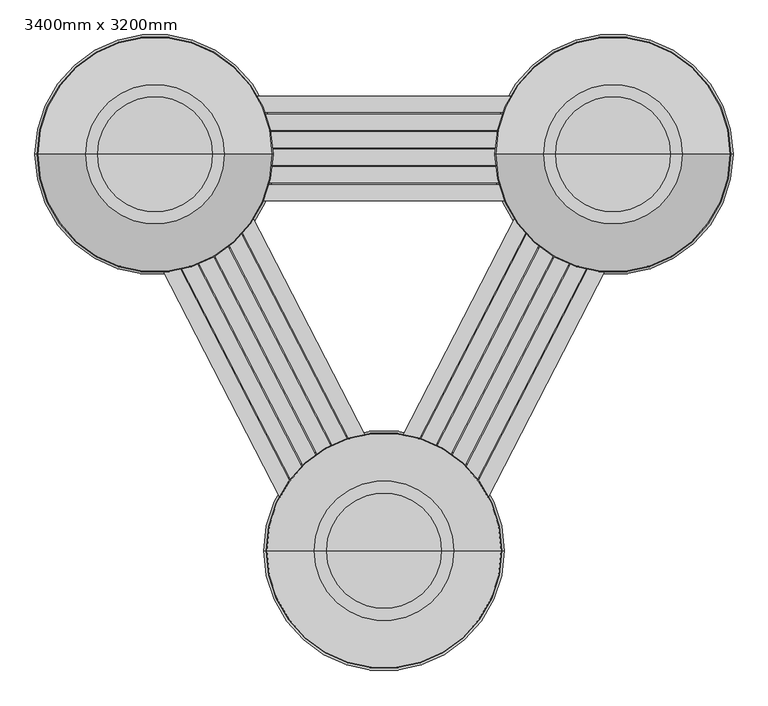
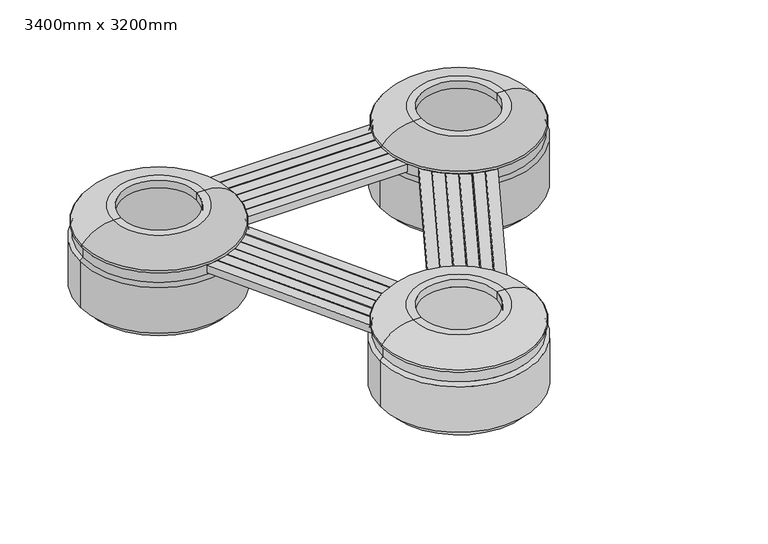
"""IFC4 building model written with IfcOpenShell, lengths in millimetres: geographic element geometry, Jardinières 3 éléments avec bancs : 3400mm x 3200mm."""

import ifcopenshell
import ifcopenshell.guid

model = None  # the IFC model being written
_history = None  # IfcOwnerHistory: only IFC2X3 demands one
_inside = {}  # id of a spatial element -> (the spatial element, [elements in it])
_under = {}  # id of a project, library or spatial element -> (it, [spatial elements below it])
_declared = {}  # id of a project -> (the project, [libraries it declares])
_typed = {}  # id of a type object -> (the type object, [elements of that type])
_made_of = {}  # id of a material, layer set ... -> (it, [elements and type objects made of it])


def new_model(schema):
    """Start an empty IFC model of exactly this schema.

    Asked for "IFC4X3", IfcOpenShell would pick the latest addendum, in which some entities
    have other attributes; the version numbers below select the first issue.
    IFC2X3 requires an IfcOwnerHistory on every rooted entity: one is made here for all.
    """
    global model, _history
    if schema == "IFC4X3":
        model = ifcopenshell.file(schema_version=(4, 3, 0, 0))
    else:
        model = ifcopenshell.file(schema=schema)
    _inside.clear()
    _under.clear()
    _declared.clear()
    _typed.clear()
    _made_of.clear()
    _history = None
    if model.schema == "IFC2X3":
        org = make("IfcOrganization", Name="unknown")
        user = make(
            "IfcPersonAndOrganization",
            ThePerson=make("IfcPerson", FamilyName="unknown"),
            TheOrganization=org,
        )
        app = make(
            "IfcApplication",
            ApplicationDeveloper=org,
            Version="unknown",
            ApplicationFullName="unknown",
            ApplicationIdentifier="unknown",
        )
        _history = make(
            "IfcOwnerHistory",
            OwningUser=user,
            OwningApplication=app,
            ChangeAction="ADDED",
            CreationDate=0,
        )
    return model


def make(cls, **values):
    """One entity of the class cls with the attributes given. An attribute that is None is left unset."""
    return model.create_entity(
        cls, **{name: value for name, value in values.items() if value is not None}
    )


def rooted(cls, **values):
    """An entity with a GlobalId (a new one), such as an element, a storey or a relation."""
    return make(cls, GlobalId=ifcopenshell.guid.new(), OwnerHistory=_history, **values)


def si_unit(unit_type, name, prefix=None):
    """IfcSIUnit, for example si_unit("LENGTHUNIT", "METRE", prefix="MILLI")."""
    return make("IfcSIUnit", UnitType=unit_type, Prefix=prefix, Name=name)


def assignment(units):
    """IfcUnitAssignment: the units of a project."""
    return None if units is None else make("IfcUnitAssignment", Units=units)


def point(xyz):
    """IfcCartesianPoint."""
    return None if xyz is None else make("IfcCartesianPoint", Coordinates=xyz)


def direction(xyz):
    """IfcDirection."""
    return None if xyz is None else make("IfcDirection", DirectionRatios=xyz)


def frame(location, z_axis=None, x_axis=None):
    """IfcAxis2Placement3D, a coordinate frame: its origin and axes. An axis left out is left unset."""
    return make(
        "IfcAxis2Placement3D",
        Location=point(location),
        Axis=direction(z_axis),
        RefDirection=direction(x_axis),
    )


def frame_2d(location, x_axis=None):
    """IfcAxis2Placement2D, a coordinate frame in the plane: its origin and x axis."""
    return make(
        "IfcAxis2Placement2D", Location=point(location), RefDirection=direction(x_axis)
    )


def origin():
    """The frame at (0, 0, 0) with its axes left unset."""
    return frame((0.0, 0.0, 0.0))


def place(relative_to, where):
    """IfcLocalPlacement: puts the frame where relative to a parent placement (None: the world)."""
    return make(
        "IfcLocalPlacement", PlacementRelTo=relative_to, RelativePlacement=where
    )


def context(
    kind, dimensions, precision=None, world=None, true_north=None, identifier=None
):
    """IfcGeometricRepresentationContext, for example the 3D "Model" context."""
    return make(
        "IfcGeometricRepresentationContext",
        ContextIdentifier=identifier,
        ContextType=kind,
        CoordinateSpaceDimension=dimensions,
        Precision=precision,
        WorldCoordinateSystem=world,
        TrueNorth=true_north,
    )


def project(units=None, contexts=None):
    """IfcProject with its units and contexts."""
    return rooted(
        "IfcProject",
        Name="project",
        RepresentationContexts=contexts,
        UnitsInContext=assignment(units),
    )


def spatial(cls, under=None, at=None, **own):
    """A site, building, storey or space (cls), placed at a placement, below another one or the project."""
    s = rooted(cls, ObjectPlacement=at, **own)
    if under is not None:
        _under.setdefault(under.id(), (under, []))[1].append(s)
    return s


def polyline(points):
    """IfcPolyline through the points."""
    return make("IfcPolyline", Points=[point(p) for p in points])


def circle_curve(where, radius):
    """IfcCircle in the frame where."""
    return make("IfcCircle", Position=where, Radius=radius)


def ellipse_curve(where, semi_axis1, semi_axis2):
    """IfcEllipse in the frame where."""
    return make(
        "IfcEllipse", Position=where, SemiAxis1=semi_axis1, SemiAxis2=semi_axis2
    )


def trimmed(basis, trim1, trim2, sense, master):
    """IfcTrimmedCurve: the piece of a basis curve between two trims."""
    return make(
        "IfcTrimmedCurve",
        BasisCurve=basis,
        Trim1=trim1,
        Trim2=trim2,
        SenseAgreement=sense,
        MasterRepresentation=master,
    )


def segment(curve, same_sense, transition):
    """IfcCompositeCurveSegment."""
    return make(
        "IfcCompositeCurveSegment",
        Transition=transition,
        SameSense=same_sense,
        ParentCurve=curve,
    )


def composite_curve(segments, self_intersect=None):
    """IfcCompositeCurve: segments joined end to end."""
    return make("IfcCompositeCurve", Segments=segments, SelfIntersect=self_intersect)


def outline(outer, holes=None, kind="AREA"):
    """IfcArbitraryClosedProfileDef: a profile drawn as a closed curve; with holes, ...WithVoids."""
    if holes is None:
        return make("IfcArbitraryClosedProfileDef", ProfileType=kind, OuterCurve=outer)
    return make(
        "IfcArbitraryProfileDefWithVoids",
        ProfileType=kind,
        OuterCurve=outer,
        InnerCurves=holes,
    )


def extrude(swept, where, along, depth):
    """IfcExtrudedAreaSolid: the profile swept, set in the frame where, extruded along a direction by depth."""
    return make(
        "IfcExtrudedAreaSolid",
        SweptArea=swept,
        Position=where,
        ExtrudedDirection=direction(along),
        Depth=depth,
    )


def shape(context_of_items, identifier, shape_type, items):
    """IfcShapeRepresentation: the items that make up one representation, for example the "Body"."""
    return make(
        "IfcShapeRepresentation",
        ContextOfItems=context_of_items,
        RepresentationIdentifier=identifier,
        RepresentationType=shape_type,
        Items=items,
    )


def source(mapping_origin, context_of_items, identifier, shape_type, items):
    """IfcRepresentationMap: a shape defined once, which mapped items show again and again."""
    return make(
        "IfcRepresentationMap",
        MappingOrigin=mapping_origin,
        MappedRepresentation=shape(context_of_items, identifier, shape_type, items),
    )


def transform(
    local_origin,
    x_axis=None,
    y_axis=None,
    z_axis=None,
    scale=None,
    scale2=None,
    scale3=None,
    uniform=True,
):
    """IfcCartesianTransformationOperator3D, or its non-uniform kind. x_axis, y_axis, z_axis: its Axis1, 2, 3."""
    if uniform:
        return make(
            "IfcCartesianTransformationOperator3D",
            Axis1=direction(x_axis),
            Axis2=direction(y_axis),
            LocalOrigin=point(local_origin),
            Scale=scale,
            Axis3=direction(z_axis),
        )
    return make(
        "IfcCartesianTransformationOperator3DnonUniform",
        Axis1=direction(x_axis),
        Axis2=direction(y_axis),
        LocalOrigin=point(local_origin),
        Scale=scale,
        Axis3=direction(z_axis),
        Scale2=scale2,
        Scale3=scale3,
    )


def mapped(mapping_source, mapping_target):
    """IfcMappedItem: shows the shape of a source again, moved by a transform."""
    return make(
        "IfcMappedItem", MappingSource=mapping_source, MappingTarget=mapping_target
    )


def made_of(thing, what):
    """Note that an element or type object is made of a material, layer set ...; save() writes the relation."""
    if what is not None:
        _made_of.setdefault(what.id(), (what, []))[1].append(thing)
    return thing


def element(
    cls,
    number,
    at=None,
    inside=None,
    cuts=None,
    type_object=None,
    material=None,
    context=None,
    identifier="Body",
    shape_type=None,
    held_by="IfcProductDefinitionShape",
    body=None,
    shapes=None,
    **own,
):
    """One element of the class cls, such as IfcWall. Its Tag is "e" and its number.

    at: its placement. inside: the storey or other place that contains it. cuts: it is an
    opening in that element (IfcRelVoidsElement). A single representation is given by context,
    identifier, shape_type and body (its items); several are given by shapes. held_by: the class
    of the entity that holds the representations. save() writes the other relations.
    """
    e = rooted(cls, Tag="e%d" % number, ObjectPlacement=at, **own)
    if body is not None:
        shapes = [shape(context, identifier, shape_type, body)]
    if shapes is not None:
        e.Representation = make(held_by, Representations=shapes)
    if inside is not None:
        _inside.setdefault(inside.id(), (inside, []))[1].append(e)
    if cuts is not None:
        rooted(
            "IfcRelVoidsElement", RelatingBuildingElement=cuts, RelatedOpeningElement=e
        )
    if type_object is not None:
        _typed.setdefault(type_object.id(), (type_object, []))[1].append(e)
    return made_of(e, material)


def aggregate(whole, parts):
    """IfcRelAggregates: a whole, such as a stair, and the parts it consists of."""
    return rooted("IfcRelAggregates", RelatingObject=whole, RelatedObjects=parts)


def save(model, path):
    """Write the relations noted so far, then the file.

    IfcRelAggregates (storeys below a building ...), IfcRelContainedInSpatialStructure (elements
    in a storey), IfcRelDefinesByType, IfcRelAssociatesMaterial and IfcRelDeclares: one each for
    every whole, place, type object, material and project.
    """
    for whole, parts in _under.values():
        aggregate(whole, parts)
    for where, things in _inside.values():
        rooted(
            "IfcRelContainedInSpatialStructure",
            RelatedElements=things,
            RelatingStructure=where,
        )
    for kind, things in _typed.values():
        rooted("IfcRelDefinesByType", RelatedObjects=things, RelatingType=kind)
    for what, things in _made_of.values():
        rooted("IfcRelAssociatesMaterial", RelatedObjects=things, RelatingMaterial=what)
    for by, libraries in _declared.values():
        rooted("IfcRelDeclares", RelatingContext=by, RelatedDefinitions=libraries)
    model.write(path)


def plane_surface(at):
    """IfcPlane: the flat surface through the origin of the frame at, square to its z axis."""
    return make("IfcPlane", Position=at)


def cylinder_surface(at, radius):
    """IfcCylindricalSurface: all points at the distance radius from the z axis of the frame at."""
    return make("IfcCylindricalSurface", Position=at, Radius=radius)


def revolved_surface(curve, axis_point, axis_direction):
    """IfcSurfaceOfRevolution: the curve turned about the line through axis_point along axis_direction."""
    return make(
        "IfcSurfaceOfRevolution",
        SweptCurve=make("IfcArbitraryOpenProfileDef", ProfileType="CURVE", Curve=curve),
        AxisPosition=make("IfcAxis1Placement", Location=point(axis_point), Axis=direction(axis_direction)),
    )


def advanced_brep(points, edges, surfaces, faces):
    """IfcAdvancedBrep: a solid bounded by faces that lie on surfaces and meet in shared edges.

    An edge is (start, end): straight between two places in points (the first is 0);
    or (start, end, curve); or (start, end, curve, False) where it runs against its curve.
    A face is (place in surfaces, loops), or (place, loops, False) where it looks against
    its surface's normal. A loop lists edges by number (the first is 1), with a minus sign
    where the edge is run from its end to its start. The first loop is the outer one.
    """
    corners = [point(p) for p in points]
    vertices = [make("IfcVertexPoint", VertexGeometry=c) for c in corners]
    made = []
    for start, end, *more in edges:
        made.append(
            make(
                "IfcEdgeCurve",
                EdgeStart=vertices[start],
                EdgeEnd=vertices[end],
                EdgeGeometry=more[0] if more else make("IfcPolyline", Points=[corners[start], corners[end]]),
                SameSense=more[1] if len(more) > 1 else True,
            )
        )
    hull = []
    for where, loops, *sense in faces:
        bounds = []
        for j, loop in enumerate(loops):
            ring = [make("IfcOrientedEdge", EdgeElement=made[abs(k) - 1], Orientation=k > 0) for k in loop]
            bounds.append(
                make(
                    "IfcFaceOuterBound" if j == 0 else "IfcFaceBound",
                    Bound=make("IfcEdgeLoop", EdgeList=ring),
                    Orientation=True,
                )
            )
        hull.append(make("IfcAdvancedFace", Bounds=bounds, FaceSurface=surfaces[where], SameSense=sense[0] if sense else True))
    return make("IfcAdvancedBrep", Outer=make("IfcClosedShell", CfsFaces=hull))


def geographic_element_3400mm_x_3200mm_dc79db90(model_context):
    return source(origin(), model_context, "Body", "SolidModel", [
        advanced_brep(
        [(543.448544, -869.4342618, 60.0), (-543.448544, -869.4342618, 60.0), (-600.0, -869.4342618, 60.0), (600.0, -869.4342618, 60.0), (543.448544, -869.4342618, 0.0), (-543.448544, -869.4342618, 0.0), (0.0, -869.4342618, 0.0), (469.0521282, -869.4342618, 109.5499123), (-469.0521282, -869.4342618, 109.5499123), (0.0, -869.4342618, 109.5499123), (469.0521282, -869.4342618, 483.813184), (-469.0521282, -869.4342618, 483.813184), (288.8386785, -869.4342618, 610.0), (-288.8386785, -869.4342618, 610.0), (288.8386785, -869.4342618, 670.0), (-288.8386785, -869.4342618, 670.0), (348.8386785, -869.4342618, 670.0), (-348.8386785, -869.4342618, 670.0), (586.3293606, -869.4342618, 552.6065073), (-586.3293606, -869.4342618, 552.6065073), (575.0, -869.4342618, 530.0), (-575.0, -869.4342618, 530.0), (575.0, -869.4342618, 450.0), (-575.0, -869.4342618, 450.0), (600.0, -869.4342618, 425.0), (-600.0, -869.4342618, 425.0)],
        [
            (0, 1, circle_curve(frame((0.0, -869.4342618, 60.0), z_axis=(0.0, 0.0, 1.0), x_axis=(-1.0, 0.0, 0.0)), 543.448544)),
            (1, 2),
            (2, 3, circle_curve(frame((0.0, -869.4342618, 60.0), z_axis=(0.0, 0.0, -1.0), x_axis=(-1.0, 0.0, 0.0)), 600.0)),
            (3, 0),
            (1, 0, circle_curve(frame((0.0, -869.4342618, 60.0), z_axis=(0.0, 0.0, 1.0), x_axis=(-1.0, 0.0, 0.0)), 543.448544)),
            (3, 2, circle_curve(frame((0.0, -869.4342618, 60.0), z_axis=(0.0, 0.0, -1.0), x_axis=(-1.0, 0.0, 0.0)), 600.0)),
            (4, 5, circle_curve(frame((0.0, -869.4342618, 0.0), z_axis=(0.0, 0.0, 1.0), x_axis=(-1.0, 0.0, 0.0)), 543.448544)),
            (5, 1),
            (0, 4),
            (5, 4, circle_curve(frame((0.0, -869.4342618, 0.0), z_axis=(0.0, 0.0, 1.0), x_axis=(-1.0, 0.0, 0.0)), 543.448544)),
            (6, 5),
            (4, 6),
            (7, 8, circle_curve(frame((0.0, -869.4342618, 109.5499123), z_axis=(0.0, 0.0, 1.0), x_axis=(-1.0, 0.0, 0.0)), 469.0521282)),
            (8, 9),
            (9, 7),
            (8, 7, circle_curve(frame((0.0, -869.4342618, 109.5499123), z_axis=(0.0, 0.0, 1.0), x_axis=(-1.0, 0.0, 0.0)), 469.0521282)),
            (10, 11, circle_curve(frame((0.0, -869.4342618, 483.813184), z_axis=(0.0, 0.0, 1.0), x_axis=(-1.0, 0.0, 0.0)), 469.0521282)),
            (11, 8),
            (7, 10),
            (11, 10, circle_curve(frame((0.0, -869.4342618, 483.813184), z_axis=(0.0, 0.0, 1.0), x_axis=(-1.0, 0.0, 0.0)), 469.0521282)),
            (12, 13, circle_curve(frame((0.0, -869.4342618, 610.0), z_axis=(0.0, 0.0, 1.0), x_axis=(-1.0, 0.0, 0.0)), 288.8386785)),
            (13, 11),
            (10, 12),
            (13, 12, circle_curve(frame((0.0, -869.4342618, 610.0), z_axis=(0.0, 0.0, 1.0), x_axis=(-1.0, 0.0, 0.0)), 288.8386785)),
            (14, 15, circle_curve(frame((0.0, -869.4342618, 670.0), z_axis=(0.0, 0.0, 1.0), x_axis=(-1.0, 0.0, 0.0)), 288.8386785)),
            (15, 13),
            (12, 14),
            (15, 14, circle_curve(frame((0.0, -869.4342618, 670.0), z_axis=(0.0, 0.0, 1.0), x_axis=(-1.0, 0.0, 0.0)), 288.8386785)),
            (16, 17, circle_curve(frame((0.0, -869.4342618, 670.0), z_axis=(0.0, 0.0, 1.0), x_axis=(-1.0, 0.0, 0.0)), 348.8386785)),
            (17, 15),
            (14, 16),
            (17, 16, circle_curve(frame((0.0, -869.4342618, 670.0), z_axis=(0.0, 0.0, 1.0), x_axis=(-1.0, 0.0, 0.0)), 348.8386785)),
            (18, 19, circle_curve(frame((0.0, -869.4342618, 552.6065073), z_axis=(0.0, 0.0, 1.0), x_axis=(-1.0, 0.0, 0.0)), 586.3293606)),
            (19, 17, circle_curve(frame((-352.0482653, -869.4342618, 377.5708342), z_axis=(0.0, 1.0, 0.0), x_axis=(1.0, 0.0, 0.0)), 292.4467789)),
            (16, 18, circle_curve(frame((352.0482653, -869.4342618, 377.5708342), z_axis=(0.0, 1.0, 0.0), x_axis=(-1.0, 0.0, 0.0)), 292.4467789)),
            (19, 18, circle_curve(frame((0.0, -869.4342618, 552.6065073), z_axis=(0.0, 0.0, 1.0), x_axis=(-1.0, 0.0, 0.0)), 586.3293606)),
            (20, 21, circle_curve(frame((0.0, -869.4342618, 530.0), z_axis=(0.0, 0.0, 1.0), x_axis=(-1.0, 0.0, 0.0)), 575.0)),
            (21, 19, circle_curve(frame((-575.0, -869.4342618, 544.1421356), z_axis=(0.0, 1.0, 0.0), x_axis=(1.0, 0.0, 0.0)), 14.1421356)),
            (18, 20, circle_curve(frame((575.0, -869.4342618, 544.1421356), z_axis=(0.0, 1.0, 0.0), x_axis=(-1.0, 0.0, 0.0)), 14.1421356)),
            (21, 20, circle_curve(frame((0.0, -869.4342618, 530.0), z_axis=(0.0, 0.0, 1.0), x_axis=(-1.0, 0.0, 0.0)), 575.0)),
            (22, 23, circle_curve(frame((0.0, -869.4342618, 450.0), z_axis=(0.0, 0.0, 1.0), x_axis=(-1.0, 0.0, 0.0)), 575.0)),
            (23, 21),
            (20, 22),
            (23, 22, circle_curve(frame((0.0, -869.4342618, 450.0), z_axis=(0.0, 0.0, 1.0), x_axis=(-1.0, 0.0, 0.0)), 575.0)),
            (24, 25, circle_curve(frame((0.0, -869.4342618, 425.0), z_axis=(0.0, 0.0, 1.0), x_axis=(-1.0, 0.0, 0.0)), 600.0)),
            (25, 23, circle_curve(frame((-575.0, -869.4342618, 425.0), z_axis=(0.0, 1.0, 0.0), x_axis=(1.0, 0.0, 0.0)), 25.0)),
            (22, 24, circle_curve(frame((575.0, -869.4342618, 425.0), z_axis=(0.0, 1.0, 0.0), x_axis=(-1.0, 0.0, 0.0)), 25.0)),
            (25, 24, circle_curve(frame((0.0, -869.4342618, 425.0), z_axis=(0.0, 0.0, 1.0), x_axis=(-1.0, 0.0, 0.0)), 600.0)),
            (2, 25),
            (24, 3),
        ],
        [
            plane_surface(frame((0.0, -869.4342618, 60.0), z_axis=(0.0, 0.0, -1.0), x_axis=(-1.0, 0.0, 0.0))),
            cylinder_surface(frame((0.0, -869.4342618, -140.0), z_axis=(0.0, 0.0, -1.0), x_axis=(-1.0, 0.0, 0.0)), 543.448544),
            plane_surface(frame((0.0, -869.4342618, 0.0), z_axis=(0.0, 0.0, -1.0), x_axis=(-1.0, 0.0, 0.0))),
            plane_surface(frame((0.0, -869.4342618, 109.5499123), z_axis=(0.0, 0.0, 1.0), x_axis=(-1.0, 0.0, 0.0))),
            revolved_surface(polyline([(-469.0521282, -869.4342618, 109.54991230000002), (-469.0521282, -869.4342618, 483.813184)]), (0.0, -869.4342618, -140.0), (0.0, 0.0, -1.0)),
            revolved_surface(polyline([(-469.0521282, -869.4342618, 483.813184), (-288.8386785, -869.4342618, 610.0)]), (0.0, -869.4342618, -140.0), (0.0, 0.0, -1.0)),
            revolved_surface(polyline([(-288.8386785, -869.4342618, 610.0), (-288.8386785, -869.4342618, 670.0)]), (0.0, -869.4342618, -140.0), (0.0, 0.0, -1.0)),
            plane_surface(frame((0.0, -869.4342618, 670.0), z_axis=(0.0, 0.0, 1.0), x_axis=(-1.0, 0.0, 0.0))),
            revolved_surface(trimmed(ellipse_curve(frame((-352.0482653, -869.4342618, 377.5708342), z_axis=(0.0, -1.0, 0.0), x_axis=(1.0, 0.0, 0.0)), 292.4467789, 292.4467789), [point((-348.8386785, -869.4342618, 670.0))], [point((-586.3293606, -869.4342618, 552.6065073))], True, "CARTESIAN"), (0.0, -869.4342618, -140.0), (0.0, 0.0, -1.0)),
            revolved_surface(trimmed(ellipse_curve(frame((-575.0, -869.4342618, 544.1421356), z_axis=(0.0, -1.0, 0.0), x_axis=(1.0, 0.0, 0.0)), 14.1421356, 14.1421356), [point((-586.3293606, -869.4342618, 552.6065073))], [point((-575.0, -869.4342618, 530.0))], True, "CARTESIAN"), (0.0, -869.4342618, -140.0), (0.0, 0.0, -1.0)),
            cylinder_surface(frame((0.0, -869.4342618, -140.0), z_axis=(0.0, 0.0, -1.0), x_axis=(-1.0, 0.0, 0.0)), 575.0),
            revolved_surface(trimmed(ellipse_curve(frame((-575.0, -869.4342618, 425.0), z_axis=(0.0, -1.0, 0.0), x_axis=(1.0, 0.0, 0.0)), 25.0, 25.0), [point((-575.0, -869.4342618, 450.0))], [point((-600.0, -869.4342618, 425.0))], True, "CARTESIAN"), (0.0, -869.4342618, -140.0), (0.0, 0.0, -1.0)),
            cylinder_surface(frame((0.0, -869.4342618, -140.0), z_axis=(0.0, 0.0, -1.0), x_axis=(-1.0, 0.0, 0.0)), 600.0),
        ],
        [
            (0, [[1, 2, 3, 4]]),
            (0, [[5, -4, 6, -2]]),
            (1, [[7, 8, -1, 9]]),
            (1, [[10, -9, -5, -8]]),
            (2, [[11, -7, 12]]),
            (2, [[-12, -10, -11]]),
            (3, [[13, 14, 15]]),
            (3, [[16, -15, -14]]),
            (4, [[17, 18, -13, 19]]),
            (4, [[20, -19, -16, -18]]),
            (5, [[21, 22, -17, 23]]),
            (5, [[24, -23, -20, -22]]),
            (6, [[25, 26, -21, 27]]),
            (6, [[28, -27, -24, -26]]),
            (7, [[29, 30, -25, 31]]),
            (7, [[32, -31, -28, -30]]),
            (8, [[33, 34, -29, 35]]),
            (8, [[36, -35, -32, -34]]),
            (9, [[37, 38, -33, 39]]),
            (9, [[40, -39, -36, -38]]),
            (10, [[41, 42, -37, 43]]),
            (10, [[44, -43, -40, -42]]),
            (11, [[45, 46, -41, 47]]),
            (11, [[48, -47, -44, -46]]),
            (12, [[-3, 49, -45, 50]]),
            (12, [[-6, -50, -48, -49]]),
        ],
    ),
        extrude(outline(composite_curve([segment(polyline([(-717.7842307, 722.8661664), (-178.8421008, -322.9541588)]), True, "CONTINUOUS"), segment(trimmed(circle_curve(frame_2d((0.0, -869.4342618)), 575.0), [point((-178.8421008, -322.9541588))], [point((-253.2493576, -353.2077971))], True, "CARTESIAN"), True, "CONTINUOUS"), segment(polyline([(-253.2493576, -353.2077971), (-778.1563523, 665.3772669)]), True, "CONTINUOUS"), segment(trimmed(circle_curve(frame_2d((-1143.448544, 1109.4342618)), 575.0), [point((-778.1563523, 665.3772669))], [point((-717.7842307, 722.8661664))], True, "CARTESIAN"), True, "CONTINUOUS")], self_intersect=False)), frame((0.0, 0.0, 463.492112), z_axis=(0.0, 0.0, 1.0), x_axis=(1.0, 0.0, 0.0)), (0.0, 0.0, 1.0), 60.0),
        extrude(outline(composite_curve([segment(polyline([(-784.5039816, 660.2307432), (-260.407538, -356.7814415)]), True, "CONTINUOUS"), segment(trimmed(circle_curve(frame_2d((0.0, -869.4342618)), 575.0), [point((-260.407538, -356.7814415))], [point((-329.1745507, -397.9800062))], True, "CARTESIAN"), True, "CONTINUOUS"), segment(polyline([(-329.1745507, -397.9800062), (-850.895065, 614.4216742)]), True, "CONTINUOUS"), segment(trimmed(circle_curve(frame_2d((-1143.448544, 1109.4342618)), 575.0), [point((-850.895065, 614.4216742))], [point((-784.5039816, 660.2307432))], True, "CARTESIAN"), True, "CONTINUOUS")], self_intersect=False)), frame((0.0, 0.0, 463.492112), z_axis=(0.0, 0.0, 1.0), x_axis=(1.0, 0.0, 0.0)), (0.0, 0.0, 1.0), 60.0),
        extrude(outline(composite_curve([segment(polyline([(-857.8193761, 610.3942049), (-335.7667314, -402.6519763)]), True, "CONTINUOUS"), segment(trimmed(circle_curve(frame_2d((0.0, -869.4342618)), 575.0), [point((-335.7667314, -402.6519763))], [point((-398.7204646, -455.1312434))], True, "CARTESIAN"), True, "CONTINUOUS"), segment(polyline([(-398.7204646, -455.1312434), (-929.8718032, 575.5710061)]), True, "CONTINUOUS"), segment(trimmed(circle_curve(frame_2d((-1143.448544, 1109.4342618)), 575.0), [point((-929.8718032, 575.5710061))], [point((-857.8193761, 610.3942049))], True, "CARTESIAN"), True, "CONTINUOUS")], self_intersect=False)), frame((0.0, 0.0, 463.492112), z_axis=(0.0, 0.0, 1.0), x_axis=(1.0, 0.0, 0.0)), (0.0, 0.0, 1.0), 60.0),
        extrude(outline(composite_curve([segment(polyline([(-937.3591874, 572.6361833), (-404.7074643, -460.9775709)]), True, "CONTINUOUS"), segment(trimmed(circle_curve(frame_2d((0.0, -869.4342618)), 575.0), [point((-404.7074643, -460.9775709))], [point((-461.186217, -526.0215753))], True, "CARTESIAN"), True, "CONTINUOUS"), segment(polyline([(-461.186217, -526.0215753), (-1015.1417629, 548.9323707)]), True, "CONTINUOUS"), segment(trimmed(circle_curve(frame_2d((-1143.448544, 1109.4342618)), 575.0), [point((-1015.1417629, 548.9323707))], [point((-937.3591874, 572.6361833))], True, "CARTESIAN"), True, "CONTINUOUS")], self_intersect=False)), frame((0.0, 0.0, 463.492112), z_axis=(0.0, 0.0, 1.0), x_axis=(1.0, 0.0, 0.0)), (0.0, 0.0, 1.0), 60.0),
        extrude(outline(composite_curve([segment(polyline([(-1023.2200525, 547.1442034), (-466.4696039, -533.2332674)]), True, "CONTINUOUS"), segment(trimmed(circle_curve(frame_2d((0.0, -869.4342618)), 575.0), [point((-466.4696039, -533.2332674))], [point((-515.0002728, -613.7005742))], True, "CARTESIAN"), True, "CONTINUOUS"), segment(polyline([(-515.0002728, -613.7005742), (-1107.2556709, 535.5744567)]), True, "CONTINUOUS"), segment(trimmed(circle_curve(frame_2d((-1143.448544, 1109.4342618)), 575.0), [point((-1107.2556709, 535.5744567))], [point((-1023.2200525, 547.1442034))], True, "CARTESIAN"), True, "CONTINUOUS")], self_intersect=False)), frame((0.0, 0.0, 463.492112), z_axis=(0.0, 0.0, 1.0), x_axis=(1.0, 0.0, 0.0)), (0.0, 0.0, 1.0), 60.0),
        extrude(outline(composite_curve([segment(trimmed(circle_curve(frame_2d((-1163.2532517, 1080.673596)), 575.0), [point((-710.5067655, 726.2083379))], [point((-659.9183647, 802.6826042))], True, "CARTESIAN"), True, "CONTINUOUS"), segment(polyline([(-659.9183647, 802.6826042), (-90.8219502, -301.6522849)]), True, "CONTINUOUS"), segment(trimmed(circle_curve(frame_2d((0.0, -869.4342618)), 575.0), [point((-90.8219502, -301.6522849))], [point((-171.1145245, -320.4854304))], True, "CARTESIAN"), True, "CONTINUOUS"), segment(polyline([(-171.1145245, -320.4854304), (-710.5067655, 726.2083379)]), True, "CONTINUOUS")], self_intersect=False)), frame((0.0, 0.0, 463.492112), z_axis=(0.0, 0.0, 1.0), x_axis=(1.0, 0.0, 0.0)), (0.0, 0.0, 1.0), 60.0),
        extrude(outline(composite_curve([segment(trimmed(circle_curve(frame_2d((1143.448544, 1109.4342618)), 575.0), [point((717.7842307, 722.8661664))], [point((778.1563523, 665.3772669))], True, "CARTESIAN"), True, "CONTINUOUS"), segment(polyline([(778.1563523, 665.3772669), (253.2493576, -353.2077971)]), True, "CONTINUOUS"), segment(trimmed(circle_curve(frame_2d((0.0, -869.4342618)), 575.0), [point((253.2493576, -353.2077971))], [point((178.8421008, -322.9541588))], True, "CARTESIAN"), True, "CONTINUOUS"), segment(polyline([(178.8421008, -322.9541588), (717.7842307, 722.8661664)]), True, "CONTINUOUS")], self_intersect=False)), frame((0.0, 0.0, 463.492112), z_axis=(0.0, 0.0, 1.0), x_axis=(1.0, 0.0, 0.0)), (0.0, 0.0, 1.0), 60.0),
        extrude(outline(composite_curve([segment(trimmed(circle_curve(frame_2d((1143.448544, 1109.4342618)), 575.0), [point((784.5039816, 660.2307432))], [point((850.895065, 614.4216742))], True, "CARTESIAN"), True, "CONTINUOUS"), segment(polyline([(850.895065, 614.4216742), (329.1745507, -397.9800062)]), True, "CONTINUOUS"), segment(trimmed(circle_curve(frame_2d((0.0, -869.4342618)), 575.0), [point((329.1745507, -397.9800062))], [point((260.407538, -356.7814415))], True, "CARTESIAN"), True, "CONTINUOUS"), segment(polyline([(260.407538, -356.7814415), (784.5039816, 660.2307432)]), True, "CONTINUOUS")], self_intersect=False)), frame((0.0, 0.0, 463.492112), z_axis=(0.0, 0.0, 1.0), x_axis=(1.0, 0.0, 0.0)), (0.0, 0.0, 1.0), 60.0),
        extrude(outline(composite_curve([segment(trimmed(circle_curve(frame_2d((1143.448544, 1109.4342618)), 575.0), [point((857.8193761, 610.3942049))], [point((929.8718032, 575.5710061))], True, "CARTESIAN"), True, "CONTINUOUS"), segment(polyline([(929.8718032, 575.5710061), (398.7204646, -455.1312434)]), True, "CONTINUOUS"), segment(trimmed(circle_curve(frame_2d((0.0, -869.4342618)), 575.0), [point((398.7204646, -455.1312434))], [point((335.7667314, -402.6519763))], True, "CARTESIAN"), True, "CONTINUOUS"), segment(polyline([(335.7667314, -402.6519763), (857.8193761, 610.3942049)]), True, "CONTINUOUS")], self_intersect=False)), frame((0.0, 0.0, 463.492112), z_axis=(0.0, 0.0, 1.0), x_axis=(1.0, 0.0, 0.0)), (0.0, 0.0, 1.0), 60.0),
        extrude(outline(composite_curve([segment(trimmed(circle_curve(frame_2d((1143.448544, 1109.4342618)), 575.0), [point((937.3591874, 572.6361833))], [point((1015.1417629, 548.9323707))], True, "CARTESIAN"), True, "CONTINUOUS"), segment(polyline([(1015.1417629, 548.9323707), (461.186217, -526.0215753)]), True, "CONTINUOUS"), segment(trimmed(circle_curve(frame_2d((0.0, -869.4342618)), 575.0), [point((461.186217, -526.0215753))], [point((404.7074643, -460.9775709))], True, "CARTESIAN"), True, "CONTINUOUS"), segment(polyline([(404.7074643, -460.9775709), (937.3591874, 572.6361833)]), True, "CONTINUOUS")], self_intersect=False)), frame((0.0, 0.0, 463.492112), z_axis=(0.0, 0.0, 1.0), x_axis=(1.0, 0.0, 0.0)), (0.0, 0.0, 1.0), 60.0),
        extrude(outline(composite_curve([segment(trimmed(circle_curve(frame_2d((1143.448544, 1109.4342618)), 575.0), [point((1023.2200525, 547.1442034))], [point((1107.2556709, 535.5744567))], True, "CARTESIAN"), True, "CONTINUOUS"), segment(polyline([(1107.2556709, 535.5744567), (515.0002728, -613.7005742)]), True, "CONTINUOUS"), segment(trimmed(circle_curve(frame_2d((0.0, -869.4342618)), 575.0), [point((515.0002728, -613.7005742))], [point((466.4696039, -533.2332674))], True, "CARTESIAN"), True, "CONTINUOUS"), segment(polyline([(466.4696039, -533.2332674), (1023.2200525, 547.1442034)]), True, "CONTINUOUS")], self_intersect=False)), frame((0.0, 0.0, 463.492112), z_axis=(0.0, 0.0, 1.0), x_axis=(1.0, 0.0, 0.0)), (0.0, 0.0, 1.0), 60.0),
        extrude(outline(composite_curve([segment(polyline([(711.818697, 728.7541488), (171.1145245, -320.4854304)]), True, "CONTINUOUS"), segment(trimmed(circle_curve(frame_2d((0.0, -869.4342618)), 575.0), [point((171.1145245, -320.4854304))], [point((90.8219502, -301.6522849))], True, "CARTESIAN"), True, "CONTINUOUS"), segment(polyline([(90.8219502, -301.6522849), (661.1735753, 805.1183476)]), True, "CONTINUOUS"), segment(trimmed(circle_curve(frame_2d((1164.1656742, 1083.7290947)), 575.0), [point((661.1735753, 805.1183476))], [point((711.818697, 728.7541488))], True, "CARTESIAN"), True, "CONTINUOUS")], self_intersect=False)), frame((0.0, 0.0, 463.492112), z_axis=(0.0, 0.0, 1.0), x_axis=(1.0, 0.0, 0.0)), (0.0, 0.0, 1.0), 60.0),
        extrude(outline(composite_curve([segment(trimmed(circle_curve(frame_2d((1143.448544, 1109.4342618)), 575.0), [point((604.8352385, 1310.7318206))], [point((581.388136, 1230.7318206))], True, "CARTESIAN"), True, "CONTINUOUS"), segment(polyline([(581.388136, 1230.7318206), (-581.388136, 1230.7318206)]), True, "CONTINUOUS"), segment(trimmed(circle_curve(frame_2d((-1143.448544, 1109.4342618)), 575.0), [point((-581.388136, 1230.7318206))], [point((-604.8352385, 1310.7318206))], True, "CARTESIAN"), True, "CONTINUOUS"), segment(polyline([(-604.8352385, 1310.7318206), (604.8352385, 1310.7318206)]), True, "CONTINUOUS")], self_intersect=False)), frame((0.0, 0.0, 463.492112), z_axis=(0.0, 0.0, 1.0), x_axis=(1.0, 0.0, 0.0)), (0.0, 0.0, 1.0), 60.0),
        extrude(outline(composite_curve([segment(trimmed(circle_curve(frame_2d((1143.448544, 1109.4342618)), 575.0), [point((579.7210716, 1222.7318206))], [point((569.4134644, 1142.7318206))], True, "CARTESIAN"), True, "CONTINUOUS"), segment(polyline([(569.4134644, 1142.7318206), (-569.4134644, 1142.7318206)]), True, "CONTINUOUS"), segment(trimmed(circle_curve(frame_2d((-1143.448544, 1109.4342618)), 575.0), [point((-569.4134644, 1142.7318206))], [point((-579.7210716, 1222.7318206))], True, "CARTESIAN"), True, "CONTINUOUS"), segment(polyline([(-579.7210716, 1222.7318206), (579.7210716, 1222.7318206)]), True, "CONTINUOUS")], self_intersect=False)), frame((0.0, 0.0, 463.492112), z_axis=(0.0, 0.0, 1.0), x_axis=(1.0, 0.0, 0.0)), (0.0, 0.0, 1.0), 60.0),
        extrude(outline(composite_curve([segment(trimmed(circle_curve(frame_2d((1143.448544, 1109.4342618)), 575.0), [point((569.0053061, 1134.7318206))], [point((571.0565079, 1054.7318206))], True, "CARTESIAN"), True, "CONTINUOUS"), segment(polyline([(571.0565079, 1054.7318206), (-571.0565079, 1054.7318206)]), True, "CONTINUOUS"), segment(trimmed(circle_curve(frame_2d((-1143.448544, 1109.4342618)), 575.0), [point((-571.0565079, 1054.7318206))], [point((-569.0053061, 1134.7318206))], True, "CARTESIAN"), True, "CONTINUOUS"), segment(polyline([(-569.0053061, 1134.7318206), (569.0053061, 1134.7318206)]), True, "CONTINUOUS")], self_intersect=False)), frame((0.0, 0.0, 463.492112), z_axis=(0.0, 0.0, 1.0), x_axis=(1.0, 0.0, 0.0)), (0.0, 0.0, 1.0), 60.0),
        extrude(outline(composite_curve([segment(trimmed(circle_curve(frame_2d((1143.448544, 1109.4342618)), 575.0), [point((571.8775476, 1046.7318206))], [point((586.4377602, 966.7318206))], True, "CARTESIAN"), True, "CONTINUOUS"), segment(polyline([(586.4377602, 966.7318206), (-586.4377602, 966.7318206)]), True, "CONTINUOUS"), segment(trimmed(circle_curve(frame_2d((-1143.448544, 1109.4342618)), 575.0), [point((-586.4377602, 966.7318206))], [point((-571.8775476, 1046.7318206))], True, "CARTESIAN"), True, "CONTINUOUS"), segment(polyline([(-571.8775476, 1046.7318206), (571.8775476, 1046.7318206)]), True, "CONTINUOUS")], self_intersect=False)), frame((0.0, 0.0, 463.492112), z_axis=(0.0, 0.0, 1.0), x_axis=(1.0, 0.0, 0.0)), (0.0, 0.0, 1.0), 60.0),
        extrude(outline(composite_curve([segment(trimmed(circle_curve(frame_2d((1143.448544, 1109.4342618)), 575.0), [point((588.5487565, 958.7318206))], [point((616.7594672, 878.7318206))], True, "CARTESIAN"), True, "CONTINUOUS"), segment(polyline([(616.7594672, 878.7318206), (-616.7594672, 878.7318206)]), True, "CONTINUOUS"), segment(trimmed(circle_curve(frame_2d((-1143.448544, 1109.4342618)), 575.0), [point((-616.7594672, 878.7318206))], [point((-588.5487565, 958.7318206))], True, "CARTESIAN"), True, "CONTINUOUS"), segment(polyline([(-588.5487565, 958.7318206), (588.5487565, 958.7318206)]), True, "CONTINUOUS")], self_intersect=False)), frame((0.0, 0.0, 463.492112), z_axis=(0.0, 0.0, 1.0), x_axis=(1.0, 0.0, 0.0)), (0.0, 0.0, 1.0), 60.0),
        extrude(outline(composite_curve([segment(polyline([(607.336424, 1318.7318206), (-604.4724553, 1318.7318206)]), True, "CONTINUOUS"), segment(trimmed(circle_curve(frame_2d((-1126.9550706, 1078.6549232)), 575.0), [point((-604.4724553, 1318.7318206))], [point((-649.2775855, 1398.7318206))], True, "CARTESIAN"), True, "CONTINUOUS"), segment(polyline([(-649.2775855, 1398.7318206), (652.0177314, 1398.7318206)]), True, "CONTINUOUS"), segment(trimmed(circle_curve(frame_2d((1130.0890983, 1079.2435296)), 575.0), [point((652.0177314, 1398.7318206))], [point((607.336424, 1318.7318206))], True, "CARTESIAN"), True, "CONTINUOUS")], self_intersect=False)), frame((0.0, 0.0, 463.492112), z_axis=(0.0, 0.0, 1.0), x_axis=(1.0, 0.0, 0.0)), (0.0, 0.0, 1.0), 60.0),
        advanced_brep(
        [(-543.448544, 1109.4342618, 425.0), (-1743.448544, 1109.4342618, 425.0), (-1743.448544, 1109.4342618, 60.0), (-543.448544, 1109.4342618, 60.0), (-568.448544, 1109.4342618, 450.0), (-1718.448544, 1109.4342618, 450.0), (-568.448544, 1109.4342618, 530.0), (-1718.448544, 1109.4342618, 530.0), (-557.1191834, 1109.4342618, 552.6065073), (-1729.7779046, 1109.4342618, 552.6065073), (-794.6098655, 1109.4342618, 670.0), (-1492.2872224, 1109.4342618, 670.0), (-854.6098655, 1109.4342618, 670.0), (-1432.2872224, 1109.4342618, 670.0), (-854.6098655, 1109.4342618, 610.0), (-1432.2872224, 1109.4342618, 610.0), (-674.3964158, 1109.4342618, 483.813184), (-1612.5006722, 1109.4342618, 483.813184), (-674.3964158, 1109.4342618, 109.5499123), (-1612.5006722, 1109.4342618, 109.5499123), (-1143.448544, 1109.4342618, 109.5499123), (-600.0, 1109.4342618, 0.0), (-1686.897088, 1109.4342618, 0.0), (-1143.448544, 1109.4342618, 0.0), (-600.0, 1109.4342618, 60.0), (-1686.897088, 1109.4342618, 60.0)],
        [
            (0, 1, circle_curve(frame((-1143.448544, 1109.4342618, 425.0), z_axis=(0.0, 0.0, -1.0), x_axis=(-1.0, 0.0, 0.0)), 600.0)),
            (1, 2),
            (2, 3, circle_curve(frame((-1143.448544, 1109.4342618, 60.0), z_axis=(0.0, 0.0, 1.0), x_axis=(-1.0, 0.0, 0.0)), 600.0)),
            (3, 0),
            (1, 0, circle_curve(frame((-1143.448544, 1109.4342618, 425.0), z_axis=(0.0, 0.0, -1.0), x_axis=(-1.0, 0.0, 0.0)), 600.0)),
            (3, 2, circle_curve(frame((-1143.448544, 1109.4342618, 60.0), z_axis=(0.0, 0.0, 1.0), x_axis=(-1.0, 0.0, 0.0)), 600.0)),
            (4, 5, circle_curve(frame((-1143.448544, 1109.4342618, 450.0), z_axis=(0.0, 0.0, -1.0), x_axis=(-1.0, 0.0, 0.0)), 575.0)),
            (5, 1, circle_curve(frame((-1718.448544, 1109.4342618, 425.0), z_axis=(0.0, -1.0, 0.0), x_axis=(1.0, 0.0, 0.0)), 25.0)),
            (0, 4, circle_curve(frame((-568.448544, 1109.4342618, 425.0), z_axis=(0.0, -1.0, 0.0), x_axis=(-1.0, 0.0, 0.0)), 25.0)),
            (5, 4, circle_curve(frame((-1143.448544, 1109.4342618, 450.0), z_axis=(0.0, 0.0, -1.0), x_axis=(-1.0, 0.0, 0.0)), 575.0)),
            (6, 7, circle_curve(frame((-1143.448544, 1109.4342618, 530.0), z_axis=(0.0, 0.0, -1.0), x_axis=(-1.0, 0.0, 0.0)), 575.0)),
            (7, 5),
            (4, 6),
            (7, 6, circle_curve(frame((-1143.448544, 1109.4342618, 530.0), z_axis=(0.0, 0.0, -1.0), x_axis=(-1.0, 0.0, 0.0)), 575.0)),
            (8, 9, circle_curve(frame((-1143.448544, 1109.4342618, 552.6065073), z_axis=(0.0, 0.0, -1.0), x_axis=(-1.0, 0.0, 0.0)), 586.3293606)),
            (9, 7, circle_curve(frame((-1718.448544, 1109.4342618, 544.1421356), z_axis=(0.0, -1.0, 0.0), x_axis=(1.0, 0.0, 0.0)), 14.1421356)),
            (6, 8, circle_curve(frame((-568.448544, 1109.4342618, 544.1421356), z_axis=(0.0, -1.0, 0.0), x_axis=(-1.0, 0.0, 0.0)), 14.1421356)),
            (9, 8, circle_curve(frame((-1143.448544, 1109.4342618, 552.6065073), z_axis=(0.0, 0.0, -1.0), x_axis=(-1.0, 0.0, 0.0)), 586.3293606)),
            (10, 11, circle_curve(frame((-1143.448544, 1109.4342618, 670.0), z_axis=(0.0, 0.0, -1.0), x_axis=(-1.0, 0.0, 0.0)), 348.8386785)),
            (11, 9, circle_curve(frame((-1495.4968093, 1109.4342618, 377.5708342), z_axis=(0.0, -1.0, 0.0), x_axis=(1.0, 0.0, 0.0)), 292.4467789)),
            (8, 10, circle_curve(frame((-791.4002786, 1109.4342618, 377.5708342), z_axis=(0.0, -1.0, 0.0), x_axis=(-1.0, 0.0, 0.0)), 292.4467789)),
            (11, 10, circle_curve(frame((-1143.448544, 1109.4342618, 670.0), z_axis=(0.0, 0.0, -1.0), x_axis=(-1.0, 0.0, 0.0)), 348.8386785)),
            (12, 13, circle_curve(frame((-1143.448544, 1109.4342618, 670.0), z_axis=(0.0, 0.0, -1.0), x_axis=(-1.0, 0.0, 0.0)), 288.8386785)),
            (13, 11),
            (10, 12),
            (13, 12, circle_curve(frame((-1143.448544, 1109.4342618, 670.0), z_axis=(0.0, 0.0, -1.0), x_axis=(-1.0, 0.0, 0.0)), 288.8386785)),
            (14, 15, circle_curve(frame((-1143.448544, 1109.4342618, 610.0), z_axis=(0.0, 0.0, -1.0), x_axis=(-1.0, 0.0, 0.0)), 288.8386785)),
            (15, 13),
            (12, 14),
            (15, 14, circle_curve(frame((-1143.448544, 1109.4342618, 610.0), z_axis=(0.0, 0.0, -1.0), x_axis=(-1.0, 0.0, 0.0)), 288.8386785)),
            (16, 17, circle_curve(frame((-1143.448544, 1109.4342618, 483.813184), z_axis=(0.0, 0.0, -1.0), x_axis=(-1.0, 0.0, 0.0)), 469.0521282)),
            (17, 15),
            (14, 16),
            (17, 16, circle_curve(frame((-1143.448544, 1109.4342618, 483.813184), z_axis=(0.0, 0.0, -1.0), x_axis=(-1.0, 0.0, 0.0)), 469.0521282)),
            (18, 19, circle_curve(frame((-1143.448544, 1109.4342618, 109.5499123), z_axis=(0.0, 0.0, -1.0), x_axis=(-1.0, 0.0, 0.0)), 469.0521282)),
            (19, 17),
            (16, 18),
            (19, 18, circle_curve(frame((-1143.448544, 1109.4342618, 109.5499123), z_axis=(0.0, 0.0, -1.0), x_axis=(-1.0, 0.0, 0.0)), 469.0521282)),
            (20, 19),
            (18, 20),
            (21, 22, circle_curve(frame((-1143.448544, 1109.4342618, 0.0), z_axis=(0.0, 0.0, -1.0), x_axis=(-1.0, 0.0, 0.0)), 543.448544)),
            (22, 23),
            (23, 21),
            (22, 21, circle_curve(frame((-1143.448544, 1109.4342618, 0.0), z_axis=(0.0, 0.0, -1.0), x_axis=(-1.0, 0.0, 0.0)), 543.448544)),
            (24, 25, circle_curve(frame((-1143.448544, 1109.4342618, 60.0), z_axis=(0.0, 0.0, -1.0), x_axis=(-1.0, 0.0, 0.0)), 543.448544)),
            (25, 22),
            (21, 24),
            (25, 24, circle_curve(frame((-1143.448544, 1109.4342618, 60.0), z_axis=(0.0, 0.0, -1.0), x_axis=(-1.0, 0.0, 0.0)), 543.448544)),
            (2, 25),
            (24, 3),
        ],
        [
            cylinder_surface(frame((-1143.448544, 1109.4342618, -140.0), z_axis=(0.0, 0.0, 1.0), x_axis=(-1.0, 0.0, 0.0)), 600.0),
            revolved_surface(trimmed(ellipse_curve(frame((-1718.448544, 1109.4342618, 425.0), z_axis=(0.0, 1.0, 0.0), x_axis=(1.0, 0.0, 0.0)), 25.0, 25.0), [point((-1743.448544, 1109.4342618, 425.0))], [point((-1718.448544, 1109.4342618, 450.0))], True, "CARTESIAN"), (-1143.448544, 1109.4342618, -140.0), (0.0, 0.0, 1.0)),
            cylinder_surface(frame((-1143.448544, 1109.4342618, -140.0), z_axis=(0.0, 0.0, 1.0), x_axis=(-1.0, 0.0, 0.0)), 575.0),
            revolved_surface(trimmed(ellipse_curve(frame((-1718.448544, 1109.4342618, 544.1421356), z_axis=(0.0, 1.0, 0.0), x_axis=(1.0, 0.0, 0.0)), 14.1421356, 14.1421356), [point((-1718.448544, 1109.4342618, 530.0))], [point((-1729.7779046, 1109.4342618, 552.6065073))], True, "CARTESIAN"), (-1143.448544, 1109.4342618, -140.0), (0.0, 0.0, 1.0)),
            revolved_surface(trimmed(ellipse_curve(frame((-1495.4968093, 1109.4342618, 377.5708342), z_axis=(0.0, 1.0, 0.0), x_axis=(1.0, 0.0, 0.0)), 292.4467789, 292.4467789), [point((-1729.7779046, 1109.4342618, 552.6065073))], [point((-1492.2872224, 1109.4342618, 670.0))], True, "CARTESIAN"), (-1143.448544, 1109.4342618, -140.0), (0.0, 0.0, 1.0)),
            plane_surface(frame((-1143.448544, 1109.4342618, 670.0), z_axis=(0.0, 0.0, 1.0), x_axis=(-1.0, 0.0, 0.0))),
            revolved_surface(polyline([(-1432.2872225, 1109.4342618, 670.0), (-1432.2872225, 1109.4342618, 610.0)]), (-1143.448544, 1109.4342618, -140.0), (0.0, 0.0, 1.0)),
            revolved_surface(polyline([(-1432.2872224, 1109.4342618, 610.0), (-1612.5006722, 1109.4342618, 483.813184)]), (-1143.448544, 1109.4342618, -140.0), (0.0, 0.0, 1.0)),
            revolved_surface(polyline([(-1612.5006722, 1109.4342618, 483.813184), (-1612.5006722, 1109.4342618, 109.54991230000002)]), (-1143.448544, 1109.4342618, -140.0), (0.0, 0.0, 1.0)),
            plane_surface(frame((-1143.448544, 1109.4342618, 109.5499123), z_axis=(0.0, 0.0, 1.0), x_axis=(-1.0, 0.0, 0.0))),
            plane_surface(frame((-1143.448544, 1109.4342618, 0.0), z_axis=(0.0, 0.0, -1.0), x_axis=(-1.0, 0.0, 0.0))),
            cylinder_surface(frame((-1143.448544, 1109.4342618, -140.0), z_axis=(0.0, 0.0, 1.0), x_axis=(-1.0, 0.0, 0.0)), 543.448544),
            plane_surface(frame((-1143.448544, 1109.4342618, 60.0), z_axis=(0.0, 0.0, -1.0), x_axis=(-1.0, 0.0, 0.0))),
        ],
        [
            (0, [[1, 2, 3, 4]]),
            (0, [[5, -4, 6, -2]]),
            (1, [[7, 8, -1, 9]]),
            (1, [[10, -9, -5, -8]]),
            (2, [[11, 12, -7, 13]]),
            (2, [[14, -13, -10, -12]]),
            (3, [[15, 16, -11, 17]]),
            (3, [[18, -17, -14, -16]]),
            (4, [[19, 20, -15, 21]]),
            (4, [[22, -21, -18, -20]]),
            (5, [[23, 24, -19, 25]]),
            (5, [[26, -25, -22, -24]]),
            (6, [[27, 28, -23, 29]]),
            (6, [[30, -29, -26, -28]]),
            (7, [[31, 32, -27, 33]]),
            (7, [[34, -33, -30, -32]]),
            (8, [[35, 36, -31, 37]]),
            (8, [[38, -37, -34, -36]]),
            (9, [[39, -35, 40]]),
            (9, [[-40, -38, -39]]),
            (10, [[41, 42, 43]]),
            (10, [[44, -43, -42]]),
            (11, [[45, 46, -41, 47]]),
            (11, [[48, -47, -44, -46]]),
            (12, [[-3, 49, -45, 50]]),
            (12, [[-6, -50, -48, -49]]),
        ],
    ),
        advanced_brep(
        [(1743.448544, 1109.4342618, 425.0), (543.448544, 1109.4342618, 425.0), (543.448544, 1109.4342618, 60.0), (1743.448544, 1109.4342618, 60.0), (1718.448544, 1109.4342618, 450.0), (568.448544, 1109.4342618, 450.0), (1718.448544, 1109.4342618, 530.0), (568.448544, 1109.4342618, 530.0), (1729.7779046, 1109.4342618, 552.6065073), (557.1191834, 1109.4342618, 552.6065073), (1492.2872224, 1109.4342618, 670.0), (794.6098655, 1109.4342618, 670.0), (1432.2872224, 1109.4342618, 670.0), (854.6098655, 1109.4342618, 670.0), (1432.2872224, 1109.4342618, 610.0), (854.6098655, 1109.4342618, 610.0), (1612.5006722, 1109.4342618, 483.813184), (674.3964158, 1109.4342618, 483.813184), (1612.5006722, 1109.4342618, 109.5499123), (674.3964158, 1109.4342618, 109.5499123), (1143.448544, 1109.4342618, 109.5499123), (1686.897088, 1109.4342618, 0.0), (600.0, 1109.4342618, 0.0), (1143.448544, 1109.4342618, 0.0), (1686.897088, 1109.4342618, 60.0), (600.0, 1109.4342618, 60.0)],
        [
            (0, 1, circle_curve(frame((1143.448544, 1109.4342618, 425.0), z_axis=(0.0, 0.0, -1.0), x_axis=(-1.0, 0.0, 0.0)), 600.0)),
            (1, 2),
            (2, 3, circle_curve(frame((1143.448544, 1109.4342618, 60.0), z_axis=(0.0, 0.0, 1.0), x_axis=(-1.0, 0.0, 0.0)), 600.0)),
            (3, 0),
            (1, 0, circle_curve(frame((1143.448544, 1109.4342618, 425.0), z_axis=(0.0, 0.0, -1.0), x_axis=(-1.0, 0.0, 0.0)), 600.0)),
            (3, 2, circle_curve(frame((1143.448544, 1109.4342618, 60.0), z_axis=(0.0, 0.0, 1.0), x_axis=(-1.0, 0.0, 0.0)), 600.0)),
            (4, 5, circle_curve(frame((1143.448544, 1109.4342618, 450.0), z_axis=(0.0, 0.0, -1.0), x_axis=(-1.0, 0.0, 0.0)), 575.0)),
            (5, 1, circle_curve(frame((568.448544, 1109.4342618, 425.0), z_axis=(0.0, -1.0, 0.0), x_axis=(1.0, 0.0, 0.0)), 25.0)),
            (0, 4, circle_curve(frame((1718.448544, 1109.4342618, 425.0), z_axis=(0.0, -1.0, 0.0), x_axis=(-1.0, 0.0, 0.0)), 25.0)),
            (5, 4, circle_curve(frame((1143.448544, 1109.4342618, 450.0), z_axis=(0.0, 0.0, -1.0), x_axis=(-1.0, 0.0, 0.0)), 575.0)),
            (6, 7, circle_curve(frame((1143.448544, 1109.4342618, 530.0), z_axis=(0.0, 0.0, -1.0), x_axis=(-1.0, 0.0, 0.0)), 575.0)),
            (7, 5),
            (4, 6),
            (7, 6, circle_curve(frame((1143.448544, 1109.4342618, 530.0), z_axis=(0.0, 0.0, -1.0), x_axis=(-1.0, 0.0, 0.0)), 575.0)),
            (8, 9, circle_curve(frame((1143.448544, 1109.4342618, 552.6065073), z_axis=(0.0, 0.0, -1.0), x_axis=(-1.0, 0.0, 0.0)), 586.3293606)),
            (9, 7, circle_curve(frame((568.448544, 1109.4342618, 544.1421356), z_axis=(0.0, -1.0, 0.0), x_axis=(1.0, 0.0, 0.0)), 14.1421356)),
            (6, 8, circle_curve(frame((1718.448544, 1109.4342618, 544.1421356), z_axis=(0.0, -1.0, 0.0), x_axis=(-1.0, 0.0, 0.0)), 14.1421356)),
            (9, 8, circle_curve(frame((1143.448544, 1109.4342618, 552.6065073), z_axis=(0.0, 0.0, -1.0), x_axis=(-1.0, 0.0, 0.0)), 586.3293606)),
            (10, 11, circle_curve(frame((1143.448544, 1109.4342618, 670.0), z_axis=(0.0, 0.0, -1.0), x_axis=(-1.0, 0.0, 0.0)), 348.8386785)),
            (11, 9, circle_curve(frame((791.4002786, 1109.4342618, 377.5708342), z_axis=(0.0, -1.0, 0.0), x_axis=(1.0, 0.0, 0.0)), 292.4467789)),
            (8, 10, circle_curve(frame((1495.4968093, 1109.4342618, 377.5708342), z_axis=(0.0, -1.0, 0.0), x_axis=(-1.0, 0.0, 0.0)), 292.4467789)),
            (11, 10, circle_curve(frame((1143.448544, 1109.4342618, 670.0), z_axis=(0.0, 0.0, -1.0), x_axis=(-1.0, 0.0, 0.0)), 348.8386785)),
            (12, 13, circle_curve(frame((1143.448544, 1109.4342618, 670.0), z_axis=(0.0, 0.0, -1.0), x_axis=(-1.0, 0.0, 0.0)), 288.8386785)),
            (13, 11),
            (10, 12),
            (13, 12, circle_curve(frame((1143.448544, 1109.4342618, 670.0), z_axis=(0.0, 0.0, -1.0), x_axis=(-1.0, 0.0, 0.0)), 288.8386785)),
            (14, 15, circle_curve(frame((1143.448544, 1109.4342618, 610.0), z_axis=(0.0, 0.0, -1.0), x_axis=(-1.0, 0.0, 0.0)), 288.8386785)),
            (15, 13),
            (12, 14),
            (15, 14, circle_curve(frame((1143.448544, 1109.4342618, 610.0), z_axis=(0.0, 0.0, -1.0), x_axis=(-1.0, 0.0, 0.0)), 288.8386785)),
            (16, 17, circle_curve(frame((1143.448544, 1109.4342618, 483.813184), z_axis=(0.0, 0.0, -1.0), x_axis=(-1.0, 0.0, 0.0)), 469.0521282)),
            (17, 15),
            (14, 16),
            (17, 16, circle_curve(frame((1143.448544, 1109.4342618, 483.813184), z_axis=(0.0, 0.0, -1.0), x_axis=(-1.0, 0.0, 0.0)), 469.0521282)),
            (18, 19, circle_curve(frame((1143.448544, 1109.4342618, 109.5499123), z_axis=(0.0, 0.0, -1.0), x_axis=(-1.0, 0.0, 0.0)), 469.0521282)),
            (19, 17),
            (16, 18),
            (19, 18, circle_curve(frame((1143.448544, 1109.4342618, 109.5499123), z_axis=(0.0, 0.0, -1.0), x_axis=(-1.0, 0.0, 0.0)), 469.0521282)),
            (20, 19),
            (18, 20),
            (21, 22, circle_curve(frame((1143.448544, 1109.4342618, 0.0), z_axis=(0.0, 0.0, -1.0), x_axis=(-1.0, 0.0, 0.0)), 543.448544)),
            (22, 23),
            (23, 21),
            (22, 21, circle_curve(frame((1143.448544, 1109.4342618, 0.0), z_axis=(0.0, 0.0, -1.0), x_axis=(-1.0, 0.0, 0.0)), 543.448544)),
            (24, 25, circle_curve(frame((1143.448544, 1109.4342618, 60.0), z_axis=(0.0, 0.0, -1.0), x_axis=(-1.0, 0.0, 0.0)), 543.448544)),
            (25, 22),
            (21, 24),
            (25, 24, circle_curve(frame((1143.448544, 1109.4342618, 60.0), z_axis=(0.0, 0.0, -1.0), x_axis=(-1.0, 0.0, 0.0)), 543.448544)),
            (2, 25),
            (24, 3),
        ],
        [
            cylinder_surface(frame((1143.448544, 1109.4342618, -140.0), z_axis=(0.0, 0.0, 1.0), x_axis=(-1.0, 0.0, 0.0)), 600.0),
            revolved_surface(trimmed(ellipse_curve(frame((568.448544, 1109.4342618, 425.0), z_axis=(0.0, 1.0, 0.0), x_axis=(1.0, 0.0, 0.0)), 25.0, 25.0), [point((543.448544, 1109.4342618, 425.0))], [point((568.448544, 1109.4342618, 450.0))], True, "CARTESIAN"), (1143.448544, 1109.4342618, -140.0), (0.0, 0.0, 1.0)),
            cylinder_surface(frame((1143.448544, 1109.4342618, -140.0), z_axis=(0.0, 0.0, 1.0), x_axis=(-1.0, 0.0, 0.0)), 575.0),
            revolved_surface(trimmed(ellipse_curve(frame((568.448544, 1109.4342618, 544.1421356), z_axis=(0.0, 1.0, 0.0), x_axis=(1.0, 0.0, 0.0)), 14.1421356, 14.1421356), [point((568.448544, 1109.4342618, 530.0))], [point((557.1191834, 1109.4342618, 552.6065073))], True, "CARTESIAN"), (1143.448544, 1109.4342618, -140.0), (0.0, 0.0, 1.0)),
            revolved_surface(trimmed(ellipse_curve(frame((791.4002786, 1109.4342618, 377.5708342), z_axis=(0.0, 1.0, 0.0), x_axis=(1.0, 0.0, 0.0)), 292.4467789, 292.4467789), [point((557.1191834, 1109.4342618, 552.6065073))], [point((794.6098655, 1109.4342618, 670.0))], True, "CARTESIAN"), (1143.448544, 1109.4342618, -140.0), (0.0, 0.0, 1.0)),
            plane_surface(frame((1143.448544, 1109.4342618, 670.0), z_axis=(0.0, 0.0, 1.0), x_axis=(-1.0, 0.0, 0.0))),
            revolved_surface(polyline([(854.6098655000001, 1109.4342618, 670.0), (854.6098655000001, 1109.4342618, 610.0)]), (1143.448544, 1109.4342618, -140.0), (0.0, 0.0, 1.0)),
            revolved_surface(polyline([(854.6098655, 1109.4342618, 610.0), (674.3964158, 1109.4342618, 483.813184)]), (1143.448544, 1109.4342618, -140.0), (0.0, 0.0, 1.0)),
            revolved_surface(polyline([(674.3964158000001, 1109.4342618, 483.813184), (674.3964158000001, 1109.4342618, 109.54991230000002)]), (1143.448544, 1109.4342618, -140.0), (0.0, 0.0, 1.0)),
            plane_surface(frame((1143.448544, 1109.4342618, 109.5499123), z_axis=(0.0, 0.0, 1.0), x_axis=(-1.0, 0.0, 0.0))),
            plane_surface(frame((1143.448544, 1109.4342618, 0.0), z_axis=(0.0, 0.0, -1.0), x_axis=(-1.0, 0.0, 0.0))),
            cylinder_surface(frame((1143.448544, 1109.4342618, -140.0), z_axis=(0.0, 0.0, 1.0), x_axis=(-1.0, 0.0, 0.0)), 543.448544),
            plane_surface(frame((1143.448544, 1109.4342618, 60.0), z_axis=(0.0, 0.0, -1.0), x_axis=(-1.0, 0.0, 0.0))),
        ],
        [
            (0, [[1, 2, 3, 4]]),
            (0, [[5, -4, 6, -2]]),
            (1, [[7, 8, -1, 9]]),
            (1, [[10, -9, -5, -8]]),
            (2, [[11, 12, -7, 13]]),
            (2, [[14, -13, -10, -12]]),
            (3, [[15, 16, -11, 17]]),
            (3, [[18, -17, -14, -16]]),
            (4, [[19, 20, -15, 21]]),
            (4, [[22, -21, -18, -20]]),
            (5, [[23, 24, -19, 25]]),
            (5, [[26, -25, -22, -24]]),
            (6, [[27, 28, -23, 29]]),
            (6, [[30, -29, -26, -28]]),
            (7, [[31, 32, -27, 33]]),
            (7, [[34, -33, -30, -32]]),
            (8, [[35, 36, -31, 37]]),
            (8, [[38, -37, -34, -36]]),
            (9, [[39, -35, 40]]),
            (9, [[-40, -38, -39]]),
            (10, [[41, 42, 43]]),
            (10, [[44, -43, -42]]),
            (11, [[45, 46, -41, 47]]),
            (11, [[48, -47, -44, -46]]),
            (12, [[-3, 49, -45, 50]]),
            (12, [[-6, -50, -48, -49]]),
        ],
    ),
    ])


if __name__ == "__main__":
    model = new_model("IFC4")
    model_context = context("Model", 3, world=origin())
    ifc_project = project(units=[si_unit("LENGTHUNIT", "METRE", prefix="MILLI")], contexts=[model_context])
    site = spatial("IfcSite", under=ifc_project)
    building = spatial("IfcBuilding", under=site)
    placement = place(None, origin())
    geographic_element_3400mm_x_3200mm_shape = geographic_element_3400mm_x_3200mm_dc79db90(model_context)
    element("IfcGeographicElement", 1, ObjectType="Jardinières 3 éléments avec bancs : 3400mm x 3200mm", at=placement, inside=building, context=model_context, shape_type="MappedRepresentation", body=[
        mapped(geographic_element_3400mm_x_3200mm_shape, transform((0.0, 0.0, 0.0), x_axis=(1.0, 0.0, 0.0), y_axis=(0.0, 1.0, 0.0), z_axis=(0.0, 0.0, 1.0))),
    ])
    save(model, "model.ifc")
